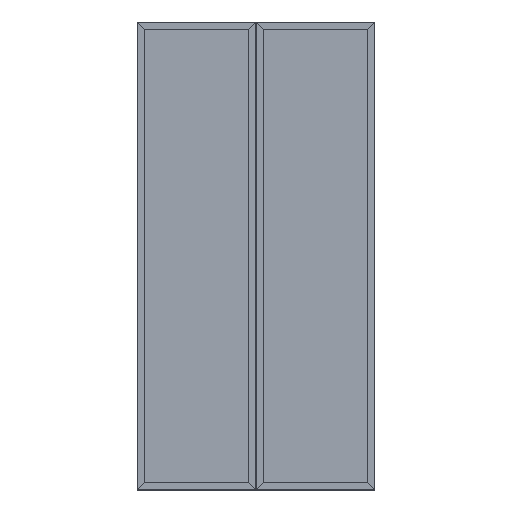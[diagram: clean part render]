
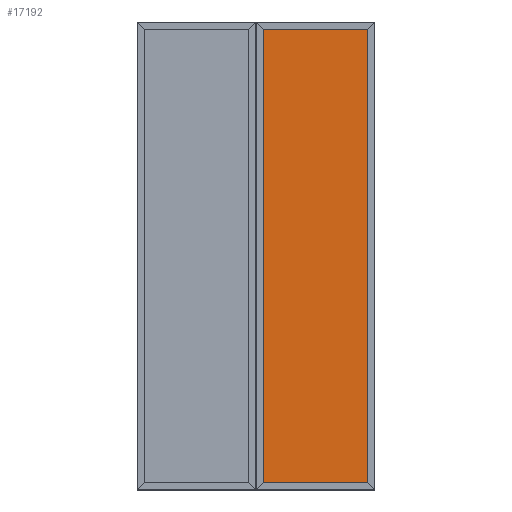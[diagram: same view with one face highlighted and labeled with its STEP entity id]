
A CAD part, top view. The second image highlights one B-rep face of the part: STEP entity #17192.
In plain terms, the highlighted planar face has unit normal (0, 0, 1).
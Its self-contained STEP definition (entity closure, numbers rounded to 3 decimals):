
#175 = DIRECTION ( 'NONE',  ( 0., 1., 0. ) ) ;
#359 = VECTOR ( 'NONE', #7792, 1000. ) ;
#1357 = VERTEX_POINT ( 'NONE', #12627 ) ;
#2316 = ORIENTED_EDGE ( 'NONE', *, *, #12014, .T. ) ;
#3806 = LINE ( 'NONE', #7221, #8999 ) ;
#5765 = ORIENTED_EDGE ( 'NONE', *, *, #17048, .F. ) ;
#5818 = VECTOR ( 'NONE', #175, 1000. ) ;
#6577 = CARTESIAN_POINT ( 'NONE',  ( 0., 0., -13.25 ) ) ;
#6701 = VERTEX_POINT ( 'NONE', #8707 ) ;
#7171 = VERTEX_POINT ( 'NONE', #15853 ) ;
#7221 = CARTESIAN_POINT ( 'NONE',  ( 0., 1162.2, -13.25 ) ) ;
#7392 = AXIS2_PLACEMENT_3D ( 'NONE', #6577, #19592, #14003 ) ;
#7792 = DIRECTION ( 'NONE',  ( -1., 0., 0. ) ) ;
#8707 = CARTESIAN_POINT ( 'NONE',  ( -267.075, -1162.2, -13.25 ) ) ;
#8999 = VECTOR ( 'NONE', #18778, 1000. ) ;
#10241 = FACE_OUTER_BOUND ( 'NONE', #20162, .T. ) ;
#11193 = CARTESIAN_POINT ( 'NONE',  ( 0., -1162.2, -13.25 ) ) ;
#11636 = LINE ( 'NONE', #20492, #5818 ) ;
#12014 = EDGE_CURVE ( 'NONE', #1357, #15464, #3806, .T. ) ;
#12627 = CARTESIAN_POINT ( 'NONE',  ( 267.075, 1162.2, -13.25 ) ) ;
#13263 = LINE ( 'NONE', #11193, #359 ) ;
#14003 = DIRECTION ( 'NONE',  ( -1., 0., 0. ) ) ;
#14274 = LINE ( 'NONE', #18269, #14340 ) ;
#14340 = VECTOR ( 'NONE', #21916, 1000. ) ;
#14893 = EDGE_CURVE ( 'NONE', #7171, #1357, #11636, .T. ) ;
#15464 = VERTEX_POINT ( 'NONE', #17566 ) ;
#15657 = EDGE_CURVE ( 'NONE', #6701, #15464, #14274, .T. ) ;
#15707 = PLANE ( 'NONE',  #7392 ) ;
#15853 = CARTESIAN_POINT ( 'NONE',  ( 267.075, -1162.2, -13.25 ) ) ;
#17048 = EDGE_CURVE ( 'NONE', #7171, #6701, #13263, .T. ) ;
#17192 = ADVANCED_FACE ( 'NONE', ( #10241 ), #15707, .F. ) ;
#17566 = CARTESIAN_POINT ( 'NONE',  ( -267.075, 1162.2, -13.25 ) ) ;
#18269 = CARTESIAN_POINT ( 'NONE',  ( -267.075, 0., -13.25 ) ) ;
#18778 = DIRECTION ( 'NONE',  ( -1., 0., 0. ) ) ;
#19592 = DIRECTION ( 'NONE',  ( 0., 0., -1. ) ) ;
#19683 = ORIENTED_EDGE ( 'NONE', *, *, #15657, .F. ) ;
#20162 = EDGE_LOOP ( 'NONE', ( #5765, #23444, #2316, #19683 ) ) ;
#20492 = CARTESIAN_POINT ( 'NONE',  ( 267.075, 0., -13.25 ) ) ;
#21916 = DIRECTION ( 'NONE',  ( 0., 1., 0. ) ) ;
#23444 = ORIENTED_EDGE ( 'NONE', *, *, #14893, .T. ) ;
